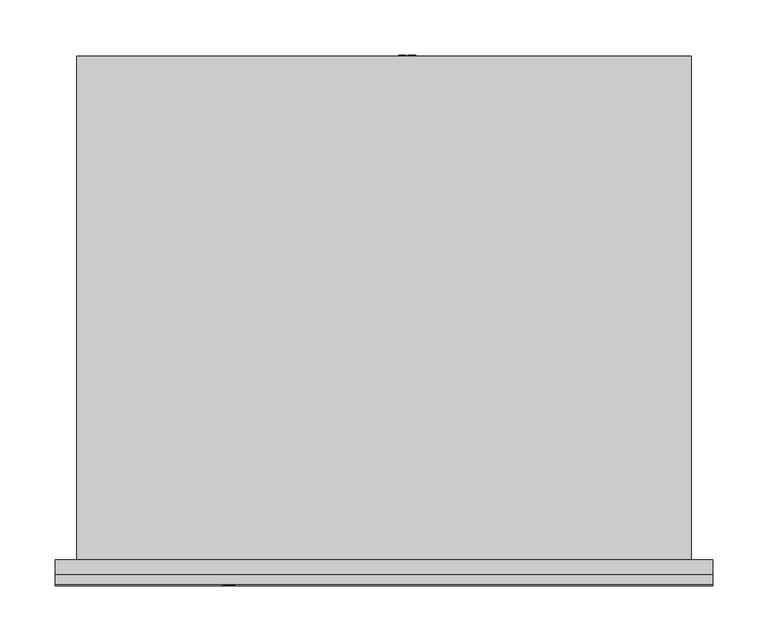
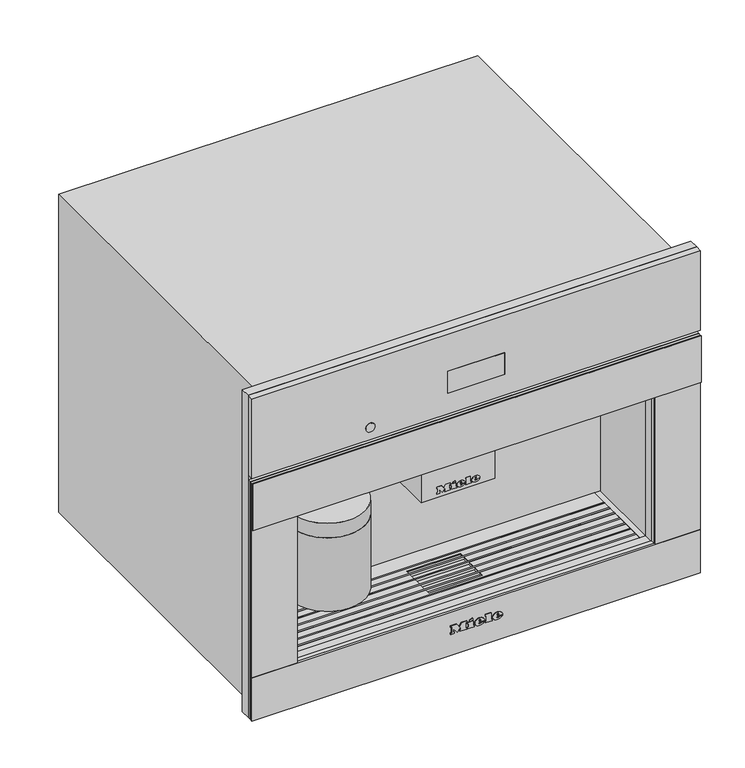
"""IFC4 building model written with IfcOpenShell, lengths in millimetres: proxy geometry, 11733930_CDN_CVA7440_EDST-CLST : 29744040_CDN_11733930_CVA7440_EDST-CLST."""

from ifc_helpers import new_model, si_unit, point, frame, frame_2d, origin, place, context, project, spatial, polyline, circle_curve, ellipse_curve, trimmed, segment, composite_curve, outline, extrude, faceted_brep, source, transform, mapped, element, save
from ifc_brep_helpers import plane_surface, cylinder_surface, revolved_surface, extruded_surface, advanced_brep


def specialty_equipment_b0fdc394(model_context):
    return source(origin(), model_context, "Body", "SolidModel", [
        extrude(outline(composite_curve([segment(trimmed(circle_curve(frame_2d((-14.0, 36.5)), 5.0), [point((-9.0, 36.5))], [point((-19.0, 36.5))], False, "CARTESIAN"), True, "CONTINUOUS"), segment(trimmed(circle_curve(frame_2d((-14.0, 36.5)), 5.0), [point((-19.0, 36.5))], [point((-9.0, 36.5))], False, "CARTESIAN"), True, "CONTINUOUS")], self_intersect=False)), frame((0.0, 0.0, 193.0), z_axis=(0.0, 0.0, 1.0), x_axis=(1.0, 0.0, 0.0)), (0.0, 0.0, 1.0), 5.0),
        extrude(outline(composite_curve([segment(trimmed(circle_curve(frame_2d((14.0, 36.5)), 5.0), [point((19.0, 36.5))], [point((9.0, 36.5))], False, "CARTESIAN"), True, "CONTINUOUS"), segment(trimmed(circle_curve(frame_2d((14.0, 36.5)), 5.0), [point((9.0, 36.5))], [point((19.0, 36.5))], False, "CARTESIAN"), True, "CONTINUOUS")], self_intersect=False)), frame((0.0, 0.0, 193.0), z_axis=(0.0, 0.0, 1.0), x_axis=(1.0, 0.0, 0.0)), (0.0, 0.0, 1.0), 5.0),
        extrude(outline(composite_curve([segment(trimmed(circle_curve(frame_2d((-156.5, 49.5)), 50.0), [point((-106.5, 49.5))], [point((-206.5, 49.5))], False, "CARTESIAN"), True, "CONTINUOUS"), segment(trimmed(circle_curve(frame_2d((-156.5, 49.5)), 50.0), [point((-206.5, 49.5))], [point((-106.5, 49.5))], False, "CARTESIAN"), True, "CONTINUOUS")], self_intersect=False)), frame((0.0, 0.0, 100.0), z_axis=(0.0, 0.0, 1.0), x_axis=(1.0, 0.0, 0.0)), (0.0, 0.0, 1.0), 103.0),
        extrude(outline(polyline([(-49.0, 95.0), (49.0, 95.0), (49.0, 20.0), (-49.0, 20.0), (-49.0, 95.0)])), frame((0.0, 0.0, 198.0), z_axis=(0.0, 0.0, 1.0), x_axis=(1.0, 0.0, 0.0)), (0.0, 0.0, 1.0), 75.0),
        extrude(outline(polyline([(455.5, 297.5), (455.5, -297.5), (4.0, -297.5), (4.0, 297.5), (455.5, 297.5)]), holes=[polyline([(273.0, 237.5), (63.0, 237.5), (63.0, -237.5), (273.0, -237.5), (273.0, 237.5)])]), frame((0.0, -13.0, 0.0), z_axis=(0.0, 1.0, 0.0), x_axis=(0.0, 0.0, 1.0)), (0.0, 0.0, 1.0), 13.0),
        extrude(outline(polyline([(97.0, 28.8772152), (107.045631, 28.8772152), (107.045631, 21.6569179), (105.7899271, 21.6569179), (105.7899271, 27.6215114), (102.8076304, 27.6215114), (102.8076304, 21.9708439), (101.5519266, 21.9708439), (101.5519266, 27.6215114), (98.2557039, 27.6215114), (98.2557039, 21.499955), (97.0, 21.499955), (97.0, 28.8772152)])), frame((0.0, 456.0, 0.0), z_axis=(0.0, 1.0, 0.0), x_axis=(0.0, 0.0, 1.0)), (0.0, 0.0, 1.0), 1.0),
        extrude(outline(polyline([(97.0, 19.6163991), (107.045631, 19.6163991), (107.045631, 18.3606953), (98.2557039, 18.3606953), (98.2557039, 13.3378798), (97.0, 13.3378798), (97.0, 19.6163991)])), frame((0.0, 456.0, 0.0), z_axis=(0.0, 1.0, 0.0), x_axis=(0.0, 0.0, 1.0)), (0.0, 0.0, 1.0), 1.0),
        advanced_brep(
        [(55.0, 425.5, 102.0), (55.0, 410.5, 102.0), (28.5, 425.5, 102.0), (13.5, 410.5, 102.0), (28.5, 456.0, 102.0), (13.5, 456.0, 102.0)],
        [
            (0, 1, circle_curve(frame((55.0, 418.0, 102.0), z_axis=(1.0, 0.0, 0.0), x_axis=(0.0, -1.0, 0.0)), 7.5)),
            (1, 0, circle_curve(frame((55.0, 418.0, 102.0), z_axis=(1.0, 0.0, 0.0), x_axis=(0.0, -1.0, 0.0)), 7.5)),
            (0, 2),
            (2, 3, ellipse_curve(frame((21.0, 418.0, 102.0), z_axis=(0.7071067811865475, -0.7071067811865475, 0.0), x_axis=(0.7071067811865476, 0.7071067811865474, 0.0)), 10.6066017, 7.5)),
            (3, 1),
            (3, 2, ellipse_curve(frame((21.0, 418.0, 102.0), z_axis=(0.7071067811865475, -0.7071067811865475, 0.0), x_axis=(0.7071067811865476, 0.7071067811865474, 0.0)), 10.6066017, 7.5)),
            (4, 5, circle_curve(frame((21.0, 456.0, 102.0), z_axis=(0.0, 1.0, 0.0), x_axis=(-1.0, 0.0, 0.0)), 7.5)),
            (5, 4, circle_curve(frame((21.0, 456.0, 102.0), z_axis=(0.0, 1.0, 0.0), x_axis=(-1.0, 0.0, 0.0)), 7.5)),
            (2, 4),
            (5, 3),
        ],
        [
            plane_surface(frame((55.0, 418.0, 102.0), z_axis=(1.0, 0.0, 0.0), x_axis=(0.0, 0.0, 1.0))),
            cylinder_surface(frame((55.0, 418.0, 102.0), z_axis=(1.0, 0.0, 0.0), x_axis=(0.0, -1.0, 0.0)), 7.5),
            plane_surface(frame((21.0, 456.0, 102.0), z_axis=(0.0, 1.0, 0.0), x_axis=(0.0, 0.0, 1.0))),
            cylinder_surface(frame((21.0, 418.0, 102.0), z_axis=(0.0, -1.0, 0.0), x_axis=(-1.0, 0.0, 0.0)), 7.5),
        ],
        [
            (0, [[1, 2]]),
            (1, [[-1, 3, 4, 5]]),
            (1, [[-2, -5, 6, -3]]),
            (2, [[7, 8]]),
            (3, [[-4, 9, -8, 10]]),
            (3, [[-6, -10, -7, -9]]),
        ],
    ),
        advanced_brep(
        [(-110.0, 49.5, 252.0), (-203.0, 49.5, 252.0), (-206.5, 49.5, 223.5), (-106.5, 49.5, 223.5), (-110.0, 49.5, 273.0), (-203.0, 49.5, 273.0), (-156.5, 49.5, 273.0), (-106.5, 49.5, 203.0), (-206.5, 49.5, 203.0), (-156.5, 49.5, 203.0)],
        [
            (0, 1, circle_curve(frame((-156.5, 49.5, 252.0), z_axis=(0.0, 0.0, -1.0), x_axis=(-1.0, 0.0, 0.0)), 46.5)),
            (1, 2, circle_curve(frame((-206.7961166, 49.5, 238.0012775), z_axis=(0.0, 1.0, 0.0), x_axis=(-1.0, 0.0, 0.0)), 14.5043005)),
            (2, 3, circle_curve(frame((-156.5, 49.5, 223.5), z_axis=(0.0, 0.0, 1.0), x_axis=(-1.0, 0.0, 0.0)), 50.0)),
            (3, 0, circle_curve(frame((-106.2038834, 49.5, 238.0012775), z_axis=(0.0, 1.0, 0.0), x_axis=(1.0, 0.0, 0.0)), 14.5043005)),
            (4, 5, circle_curve(frame((-156.5, 49.5, 273.0), z_axis=(0.0, 0.0, -1.0), x_axis=(-1.0, 0.0, 0.0)), 46.5)),
            (5, 1),
            (0, 4),
            (6, 4),
            (4, 5, circle_curve(frame((-156.5, 49.5, 273.0), z_axis=(0.0, 0.0, 1.0), x_axis=(-1.0, 0.0, 0.0)), 46.5)),
            (5, 6),
            (7, 8, circle_curve(frame((-156.5, 49.5, 203.0), z_axis=(0.0, 0.0, -1.0), x_axis=(-1.0, 0.0, 0.0)), 50.0)),
            (8, 9),
            (9, 7),
            (8, 7, circle_curve(frame((-156.5, 49.5, 203.0), z_axis=(0.0, 0.0, -1.0), x_axis=(-1.0, 0.0, 0.0)), 50.0)),
            (2, 8),
            (7, 3),
            (2, 3, circle_curve(frame((-156.5, 49.5, 223.5), z_axis=(0.0, 0.0, -1.0), x_axis=(-1.0, 0.0, 0.0)), 50.0)),
            (1, 0, circle_curve(frame((-156.5, 49.5, 252.0), z_axis=(0.0, 0.0, -1.0), x_axis=(-1.0, 0.0, 0.0)), 46.5)),
        ],
        [
            revolved_surface(trimmed(ellipse_curve(frame((-206.7961166, 49.5, 238.0012775), z_axis=(0.0, -1.0, 0.0), x_axis=(-1.0, 0.0, 0.0)), 14.5043005, 14.5043005), [point((-206.5, 49.5, 223.5))], [point((-203.0, 49.5, 252.0))], True, "CARTESIAN"), (-156.5, 49.5, 388.7361736), (0.0, 0.0, 1.0)),
            cylinder_surface(frame((-156.5, 49.5, 388.7361736), z_axis=(0.0, 0.0, 1.0), x_axis=(-1.0, 0.0, 0.0)), 46.5),
            plane_surface(frame((-156.5, 49.5, 273.0), z_axis=(0.0, 0.0, 1.0), x_axis=(-1.0, 0.0, 0.0))),
            plane_surface(frame((-156.5, 49.5, 203.0), z_axis=(0.0, 0.0, -1.0), x_axis=(-1.0, 0.0, 0.0))),
            cylinder_surface(frame((-156.5, 49.5, 388.7361736), z_axis=(0.0, 0.0, 1.0), x_axis=(-1.0, 0.0, 0.0)), 50.0),
        ],
        [
            (0, [[1, 2, 3, 4]]),
            (1, [[5, 6, -1, 7]]),
            (2, [[8, 9, 10]]),
            (3, [[11, 12, 13]]),
            (3, [[14, -13, -12]]),
            (4, [[-3, 15, -11, 16]]),
            (4, [[17, -16, -14, -15]]),
            (0, [[18, -4, -17, -2]]),
            (1, [[-9, -7, -18, -6]]),
            (2, [[-10, -5, -8]]),
        ],
    ),
        faceted_brep([(229.5, 82.0925571, 60.0), (229.5, 80.0925571, 60.0), (-229.5, 80.0925571, 60.0), (-229.5, 82.0925571, 60.0), (229.5, 70.0550731, 60.0), (229.5, 68.0550731, 60.0), (-229.5, 68.0550731, 60.0), (-229.5, 70.0550731, 60.0), (229.5, 58.0175891, 60.0), (229.5, 56.0175891, 60.0), (-229.5, 56.0175891, 60.0), (-229.5, 58.0175891, 60.0), (229.5, 45.9801052, 60.0), (229.5, 43.9801052, 60.0), (-229.5, 43.9801052, 60.0), (-229.5, 45.9801052, 60.0), (229.5, 33.9426212, 60.0), (229.5, 31.9426212, 60.0), (-229.5, 31.9426212, 60.0), (-229.5, 33.9426212, 60.0), (229.5, 21.9776522, 60.0), (229.5, 19.9776522, 60.0), (-229.5, 19.9776522, 60.0), (-229.5, 21.9776522, 60.0), (229.5, 10.0, 60.0), (229.5, 8.0, 60.0), (-229.5, 8.0, 60.0), (-229.5, 10.0, 60.0), (-229.5, 45.9801052, 62.0), (-36.0, 45.9801052, 62.0), (-36.0, 45.9801052, 63.0), (-229.5, 45.9801052, 63.0), (-229.5, 45.9801052, 63.5), (229.5, 45.9801052, 63.5), (229.5, 45.9801052, 63.0), (36.0, 45.9801052, 63.0), (36.0, 45.9801052, 62.0), (229.5, 45.9801052, 62.0), (229.5, 19.9776522, 62.0), (229.5, 10.0, 62.0), (-229.5, 10.0, 62.0), (-229.5, 19.9776522, 62.0), (229.5, 43.9801052, 62.0), (229.5, 33.9426212, 62.0), (36.0, 33.9426212, 62.0), (36.0, 43.9801052, 62.0), (229.5, 56.0175891, 62.0), (36.0, 56.0175891, 62.0), (229.5, 68.0550731, 62.0), (229.5, 58.0175891, 62.0), (36.0, 58.0175891, 62.0), (36.0, 68.0550731, 62.0), (-229.5, 33.9426212, 62.0), (-229.5, 43.9801052, 62.0), (-36.0, 43.9801052, 62.0), (-36.0, 33.9426212, 62.0), (-229.5, 56.0175891, 62.0), (-36.0, 56.0175891, 62.0), (-229.5, 58.0175891, 62.0), (-229.5, 68.0550731, 62.0), (-36.0, 68.0550731, 62.0), (-36.0, 58.0175891, 62.0), (-229.5, 104.5, 62.0), (229.5, 104.5, 62.0), (229.5, 82.0925571, 62.0), (-229.5, 82.0925571, 62.0), (36.0, 76.0, 62.0), (-36.0, 76.0, 62.0), (-36.0, 70.0550731, 62.0), (-229.5, 70.0550731, 62.0), (-229.5, 80.0925571, 62.0), (229.5, 80.0925571, 62.0), (229.5, 70.0550731, 62.0), (36.0, 70.0550731, 62.0), (229.5, 0.0, 62.0), (-229.5, 0.0, 62.0), (-229.5, 8.0, 62.0), (229.5, 8.0, 62.0), (-36.0, 25.0, 62.0), (36.0, 25.0, 62.0), (36.0, 31.9426212, 62.0), (229.5, 31.9426212, 62.0), (229.5, 21.9776522, 62.0), (-229.5, 21.9776522, 62.0), (-229.5, 31.9426212, 62.0), (-36.0, 31.9426212, 62.0), (229.5, 104.5, 63.0), (-229.5, 104.5, 63.0), (-229.5, 82.0925571, 63.0), (229.5, 82.0925571, 63.0), (-229.5, 0.0, 63.0), (229.5, 0.0, 63.0), (229.5, 8.0, 63.0), (-229.5, 8.0, 63.0), (-36.0, 76.0, 63.0), (36.0, 76.0, 63.0), (36.0, 70.0550731, 63.0), (229.5, 70.0550731, 63.0), (229.5, 80.0925571, 63.0), (-229.5, 80.0925571, 63.0), (-229.5, 70.0550731, 63.0), (-36.0, 70.0550731, 63.0), (36.0, 25.0, 63.0), (-36.0, 25.0, 63.0), (-36.0, 31.9426212, 63.0), (-229.5, 31.9426212, 63.0), (-229.5, 21.9776522, 63.0), (229.5, 21.9776522, 63.0), (229.5, 31.9426212, 63.0), (36.0, 31.9426212, 63.0), (-229.5, 19.9776522, 63.0), (-229.5, 10.0, 63.0), (229.5, 10.0, 63.0), (229.5, 19.9776522, 63.0), (-229.5, 43.9801052, 63.0), (-229.5, 33.9426212, 63.0), (-36.0, 33.9426212, 63.0), (-36.0, 43.9801052, 63.0), (-229.5, 56.0175891, 63.0), (-36.0, 56.0175891, 63.0), (-229.5, 68.0550731, 63.0), (-229.5, 58.0175891, 63.0), (-36.0, 58.0175891, 63.0), (-36.0, 68.0550731, 63.0), (229.5, 33.9426212, 63.0), (229.5, 43.9801052, 63.0), (36.0, 43.9801052, 63.0), (36.0, 33.9426212, 63.0), (229.5, 56.0175891, 63.0), (36.0, 56.0175891, 63.0), (229.5, 58.0175891, 63.0), (229.5, 68.0550731, 63.0), (36.0, 68.0550731, 63.0), (36.0, 58.0175891, 63.0), (-229.5, 8.0, 63.5), (-229.5, 10.0, 63.5), (-229.5, 19.9776522, 63.5), (-229.5, 21.9776522, 63.5), (-229.5, 31.9426212, 63.5), (-229.5, 33.9426212, 63.5), (-229.5, 43.9801052, 63.5), (-229.5, 56.0175891, 63.5), (-229.5, 58.0175891, 63.5), (-229.5, 68.0550731, 63.5), (-229.5, 70.0550731, 63.5), (-229.5, 80.0925571, 63.5), (-229.5, 82.0925571, 63.5), (229.5, 82.0925571, 63.5), (229.5, 80.0925571, 63.5), (229.5, 70.0550731, 63.5), (229.5, 68.0550731, 63.5), (229.5, 58.0175891, 63.5), (229.5, 56.0175891, 63.5), (229.5, 43.9801052, 63.5), (229.5, 33.9426212, 63.5), (229.5, 31.9426212, 63.5), (229.5, 21.9776522, 63.5), (229.5, 19.9776522, 63.5), (229.5, 10.0, 63.5), (229.5, 8.0, 63.5)], [[[0, 1, 2, 3]], [[4, 5, 6, 7]], [[8, 9, 10, 11]], [[12, 13, 14, 15]], [[16, 17, 18, 19]], [[20, 21, 22, 23]], [[24, 25, 26, 27]], [[12, 15, 28, 29, 30, 31, 32, 33, 34, 35, 36, 37]], [[38, 39, 40, 41]], [[42, 43, 44, 45]], [[46, 37, 36, 47]], [[48, 49, 50, 51]], [[52, 53, 54, 55]], [[28, 56, 57, 29]], [[58, 59, 60, 61]], [[62, 63, 64, 65]], [[66, 67, 68, 69, 70, 71, 72, 73]], [[74, 75, 76, 77]], [[78, 79, 80, 81, 82, 83, 84, 85]], [[86, 87, 88, 89]], [[90, 91, 92, 93]], [[94, 95, 96, 97, 98, 99, 100, 101]], [[102, 103, 104, 105, 106, 107, 108, 109]], [[110, 111, 112, 113]], [[114, 115, 116, 117]], [[118, 31, 30, 119]], [[120, 121, 122, 123]], [[124, 125, 126, 127]], [[34, 128, 129, 35]], [[130, 131, 132, 133]], [[63, 62, 87, 86]], [[87, 62, 65, 3, 2, 70, 69, 7, 6, 59, 58, 11, 10, 56, 28, 15, 14, 53, 52, 19, 18, 84, 83, 23, 22, 41, 40, 27, 26, 76, 75, 90, 93, 134, 135, 111, 110, 136, 137, 106, 105, 138, 139, 115, 114, 140, 32, 31, 118, 141, 142, 121, 120, 143, 144, 100, 99, 145, 146, 88]], [[75, 74, 91, 90]], [[63, 86, 89, 147, 148, 98, 97, 149, 150, 131, 130, 151, 152, 128, 34, 33, 153, 125, 124, 154, 155, 108, 107, 156, 157, 113, 112, 158, 159, 92, 91, 74, 77, 25, 24, 39, 38, 21, 20, 82, 81, 17, 16, 43, 42, 13, 12, 37, 46, 9, 8, 49, 48, 5, 4, 72, 71, 1, 0, 64]], [[66, 95, 94, 67]], [[55, 54, 117, 116]], [[29, 57, 119, 30]], [[61, 60, 123, 122]], [[67, 94, 101, 68]], [[103, 78, 85, 104]], [[78, 103, 102, 79]], [[45, 44, 127, 126]], [[47, 36, 35, 129]], [[51, 50, 133, 132]], [[95, 66, 73, 96]], [[79, 102, 109, 80]], [[158, 135, 134, 159]], [[156, 137, 136, 157]], [[154, 139, 138, 155]], [[33, 32, 140, 153]], [[151, 142, 141, 152]], [[149, 144, 143, 150]], [[147, 146, 145, 148]], [[24, 27, 40, 39]], [[135, 158, 112, 111]], [[26, 25, 77, 76]], [[159, 134, 93, 92]], [[20, 23, 83, 82]], [[137, 156, 107, 106]], [[22, 21, 38, 41]], [[157, 136, 110, 113]], [[16, 19, 52, 55, 116, 115, 139, 154, 124, 127, 44, 43]], [[18, 17, 81, 80, 109, 108, 155, 138, 105, 104, 85, 84]], [[14, 13, 42, 45, 126, 125, 153, 140, 114, 117, 54, 53]], [[8, 11, 58, 61, 122, 121, 142, 151, 130, 133, 50, 49]], [[10, 9, 46, 47, 129, 128, 152, 141, 118, 119, 57, 56]], [[4, 7, 69, 68, 101, 100, 144, 149, 97, 96, 73, 72]], [[6, 5, 48, 51, 132, 131, 150, 143, 120, 123, 60, 59]], [[0, 3, 65, 64]], [[146, 147, 89, 88]], [[2, 1, 71, 70]], [[148, 145, 99, 98]]]),
        faceted_brep([(-278.0, 456.0, 0.0), (-278.0, 0.0, 0.0), (-278.0, 0.0, 446.0), (-278.0, 456.0, 446.0), (278.0, 456.0, 0.0), (278.0, 456.0, 446.0), (278.0, 0.0, 446.0), (278.0, 0.0, 0.0), (55.0, 456.0, 133.0), (-22.0, 456.0, 133.0), (-22.0, 456.0, 89.0), (35.0, 456.0, 66.0), (55.0, 456.0, 66.0), (-36.0, 76.0, 58.0), (36.0, 76.0, 58.0), (36.0, 76.0, 62.0), (-36.0, 76.0, 62.0), (36.0, 25.0, 58.0), (-36.0, 25.0, 58.0), (-36.0, 25.0, 62.0), (36.0, 25.0, 62.0), (237.5, 0.0, 273.0), (237.5, 0.0, 63.0), (229.5, 0.0, 63.0), (229.5, 0.0, 62.0), (-229.5, 0.0, 62.0), (-229.5, 0.0, 63.0), (-237.5, 0.0, 63.0), (-237.5, 0.0, 273.0), (237.5, 104.5, 273.0), (-237.5, 104.5, 273.0), (-237.5, 104.5, 63.0), (-229.5, 104.5, 63.0), (-229.5, 104.5, 62.0), (229.5, 104.5, 62.0), (229.5, 104.5, 63.0), (237.5, 104.5, 63.0), (-22.0, 400.0, 133.0), (55.0, 400.0, 133.0), (55.0, 400.0, 66.0), (35.0, 400.0, 66.0), (-22.0, 400.0, 89.0)], [[[0, 1, 2, 3]], [[4, 5, 6, 7]], [[0, 3, 5, 4], [8, 9, 10, 11, 12]], [[13, 14, 15, 16]], [[17, 18, 19, 20]], [[3, 2, 6, 5]], [[2, 1, 7, 6], [21, 22, 23, 24, 25, 26, 27, 28]], [[1, 0, 4, 7]], [[29, 30, 31, 32, 33, 34, 35, 36]], [[29, 36, 22, 21]], [[22, 36, 35, 23]], [[31, 27, 26, 32]], [[31, 30, 28, 27]], [[30, 29, 21, 28]], [[34, 33, 25, 24], [16, 15, 20, 19]], [[25, 33, 32, 26]], [[34, 24, 23, 35]], [[14, 13, 18, 17]], [[18, 13, 16, 19]], [[14, 17, 20, 15]], [[37, 38, 39, 40, 41]], [[38, 37, 9, 8]], [[39, 38, 8, 12]], [[40, 39, 12, 11]], [[41, 40, 11, 10]], [[37, 41, 10, 9]]]),
        advanced_brep(
        [(27.088, -23.0, 36.7018), (27.088, -23.0, 37.8532), (34.7146, -23.0, 37.8532), (21.445, -23.0, 37.8532), (24.58, -23.0, 34.0), (34.5208, -23.0, 36.7018), (31.078, -23.0, 36.7018), (28.3648, -23.0, 35.425), (27.088, -23.0, 39.3124), (27.088, -23.0, 40.555), (29.0374, -23.0, 40.555), (29.0374, -23.0, 39.3124), (27.088, -22.0, 36.7018), (28.3648, -22.0, 35.425), (31.078, -22.0, 36.7018), (34.5208, -22.0, 36.7018), (24.58, -22.0, 34.0), (21.445, -22.0, 37.8532), (34.7146, -22.0, 37.8532), (27.088, -22.0, 37.8532), (27.088, -22.0, 39.3124), (29.0374, -22.0, 39.3124), (29.0374, -22.0, 40.555), (27.088, -22.0, 40.555)],
        [
            (0, 1),
            (1, 2),
            (2, 3, ellipse_curve(frame((28.0798, -23.0, 37.8532), z_axis=(0.0, -1.0, 0.0), x_axis=(-1.0, 0.0, 0.0)), 6.6348, 5.4834)),
            (3, 4, circle_curve(frame((25.8568622, -23.0, 38.2408), z_axis=(0.0, -1.0, 0.0), x_axis=(0.0, 0.0, -1.0)), 4.4288556)),
            (4, 5, circle_curve(frame((27.9469808, -23.0, 41.2504), z_axis=(0.0, -1.0, 0.0), x_axis=(0.0, 0.0, -1.0)), 7.9940516)),
            (5, 6),
            (6, 7, circle_curve(frame((28.9220588, -23.0, 37.762), z_axis=(0.0, 1.0, 0.0), x_axis=(0.0, 0.0, -1.0)), 2.4025208)),
            (7, 0, circle_curve(frame((28.3648, -23.0, 36.7018), z_axis=(0.0, 1.0, 0.0), x_axis=(0.0, 0.0, -1.0)), 1.2768)),
            (8, 9),
            (9, 10, circle_curve(frame((28.0627, -23.0, 40.555), z_axis=(0.0, 1.0, 0.0), x_axis=(0.0, 0.0, -1.0)), 0.9747)),
            (10, 11),
            (11, 8),
            (12, 13, circle_curve(frame((28.3648, -22.0, 36.7018), z_axis=(0.0, -1.0, 0.0), x_axis=(0.0, 0.0, -1.0)), 1.2768)),
            (13, 14, circle_curve(frame((28.9220588, -22.0, 37.762), z_axis=(0.0, -1.0, 0.0), x_axis=(0.0, 0.0, -1.0)), 2.4025208)),
            (14, 15),
            (15, 16, circle_curve(frame((27.9469808, -22.0, 41.2504), z_axis=(0.0, 1.0, 0.0), x_axis=(0.0, 0.0, -1.0)), 7.9940516)),
            (16, 17, circle_curve(frame((25.8568622, -22.0, 38.2408), z_axis=(0.0, 1.0, 0.0), x_axis=(0.0, 0.0, -1.0)), 4.4288556)),
            (17, 18, ellipse_curve(frame((28.0798, -22.0, 37.8532), z_axis=(0.0, 1.0, 0.0), x_axis=(-1.0, 0.0, 0.0)), 6.6348, 5.4834)),
            (18, 19),
            (19, 12),
            (20, 21),
            (21, 22),
            (22, 23, circle_curve(frame((28.0627, -22.0, 40.555), z_axis=(0.0, -1.0, 0.0), x_axis=(0.0, 0.0, -1.0)), 0.9747)),
            (23, 20),
            (0, 12),
            (19, 1),
            (18, 2),
            (5, 15),
            (14, 6),
            (17, 3),
            (13, 7),
            (16, 4),
            (8, 20),
            (23, 9),
            (22, 10),
            (21, 11),
        ],
        [
            plane_surface(frame((27.088, -23.0, 37.8532), z_axis=(0.0, -1.0, 0.0), x_axis=(0.0, 0.0, 1.0))),
            plane_surface(frame((27.088, -22.0, 37.8532), z_axis=(0.0, 1.0, 0.0), x_axis=(0.0, 0.0, -1.0))),
            plane_surface(frame((27.088, -23.0, 36.7018), z_axis=(1.0, 0.0, 0.0), x_axis=(0.0, 1.0, 0.0))),
            plane_surface(frame((27.088, -23.0, 37.8532), z_axis=(0.0, 0.0, -1.0), x_axis=(0.0, 1.0, 0.0))),
            plane_surface(frame((34.5208, -23.0, 36.7018), z_axis=(0.0, 0.0, 1.0), x_axis=(0.0, 1.0, 0.0))),
            extruded_surface(trimmed(ellipse_curve(frame((28.0798, -21.0, 37.8532), z_axis=(0.0, -1.0, 0.0), x_axis=(-1.0, 0.0, 0.0)), 6.6348, 5.4834), [point((34.7146, -21.0, 37.8532))], [point((21.445, -21.0, 37.8532))], True, "CARTESIAN"), (0.0, -1.0, 0.0), 1.0),
            revolved_surface(polyline([(28.9220588, -22.0, 35.3594792), (28.9220588, -23.0, 35.3594792)]), (28.9220588, -22.0, 37.762), (0.0, 1.0, 0.0)),
            revolved_surface(polyline([(28.3648, -22.0, 35.425), (28.3648, -23.0, 35.425)]), (28.3648, -22.0, 36.7018), (0.0, 1.0, 0.0)),
            cylinder_surface(frame((25.8568622, -22.0, 38.2408), z_axis=(0.0, -1.0, 0.0), x_axis=(0.0, 0.0, -1.0)), 4.4288556),
            cylinder_surface(frame((27.9469808, -22.0, 41.2504), z_axis=(0.0, -1.0, 0.0), x_axis=(0.0, 0.0, -1.0)), 7.9940516),
            plane_surface(frame((27.088, -23.0, 39.3124), z_axis=(1.0, 0.0, 0.0), x_axis=(0.0, 1.0, 0.0))),
            revolved_surface(polyline([(28.0627, -22.0, 39.5803), (28.0627, -23.0, 39.5803)]), (28.0627, -22.0, 40.555), (0.0, 1.0, 0.0)),
            plane_surface(frame((29.0374, -23.0, 40.555), z_axis=(-1.0, 0.0, 0.0), x_axis=(0.0, 1.0, 0.0))),
            plane_surface(frame((29.0374, -23.0, 39.3124), z_axis=(0.0, 0.0, 1.0), x_axis=(0.0, 1.0, 0.0))),
        ],
        [
            (0, [[1, 2, 3, 4, 5, 6, 7, 8], [9, 10, 11, 12]]),
            (1, [[13, 14, 15, 16, 17, 18, 19, 20], [21, 22, 23, 24]]),
            (2, [[-1, 25, -20, 26]]),
            (3, [[-2, -26, -19, 27]]),
            (4, [[-6, 28, -15, 29]]),
            (5, [[-3, -27, -18, 30]]),
            (6, [[-7, -29, -14, 31]]),
            (7, [[-8, -31, -13, -25]]),
            (8, [[-4, -30, -17, 32]]),
            (9, [[-5, -32, -16, -28]]),
            (10, [[-9, 33, -24, 34]]),
            (11, [[-10, -34, -23, 35]]),
            (12, [[-11, -35, -22, 36]]),
            (13, [[-12, -36, -21, -33]]),
        ],
    ),
        advanced_brep(
        [(3.2962, -23.0, 36.7018), (3.2962, -23.0, 37.8532), (10.9228, -23.0, 37.8532), (-2.3468, -23.0, 37.8532), (0.7882, -23.0, 34.0), (10.729, -23.0, 36.7018), (7.2862, -23.0, 36.7018), (4.573, -23.0, 35.425), (3.2962, -23.0, 39.3124), (3.2962, -23.0, 40.555), (5.2456, -23.0, 40.555), (5.2456, -23.0, 39.3124), (3.2962, -22.0, 36.7018), (4.573, -22.0, 35.425), (7.2862, -22.0, 36.7018), (10.729, -22.0, 36.7018), (0.7882, -22.0, 34.0), (-2.3468, -22.0, 37.8532), (10.9228, -22.0, 37.8532), (3.2962, -22.0, 37.8532), (3.2962, -22.0, 39.3124), (5.2456, -22.0, 39.3124), (5.2456, -22.0, 40.555), (3.2962, -22.0, 40.555)],
        [
            (0, 1),
            (1, 2),
            (2, 3, ellipse_curve(frame((4.288, -23.0, 37.8532), z_axis=(0.0, -1.0, 0.0), x_axis=(-1.0, 0.0, 0.0)), 6.6348, 5.4834)),
            (3, 4, circle_curve(frame((2.0650622, -23.0, 38.2408), z_axis=(0.0, -1.0, 0.0), x_axis=(0.0, 0.0, -1.0)), 4.4288556)),
            (4, 5, circle_curve(frame((4.1551808, -23.0, 41.2504), z_axis=(0.0, -1.0, 0.0), x_axis=(0.0, 0.0, -1.0)), 7.9940516)),
            (5, 6),
            (6, 7, circle_curve(frame((5.1302588, -23.0, 37.762), z_axis=(0.0, 1.0, 0.0), x_axis=(0.0, 0.0, -1.0)), 2.4025208)),
            (7, 0, circle_curve(frame((4.573, -23.0, 36.7018), z_axis=(0.0, 1.0, 0.0), x_axis=(0.0, 0.0, -1.0)), 1.2768)),
            (8, 9),
            (9, 10, circle_curve(frame((4.2709, -23.0, 40.555), z_axis=(0.0, 1.0, 0.0), x_axis=(0.0, 0.0, -1.0)), 0.9747)),
            (10, 11),
            (11, 8),
            (12, 13, circle_curve(frame((4.573, -22.0, 36.7018), z_axis=(0.0, -1.0, 0.0), x_axis=(0.0, 0.0, -1.0)), 1.2768)),
            (13, 14, circle_curve(frame((5.1302588, -22.0, 37.762), z_axis=(0.0, -1.0, 0.0), x_axis=(0.0, 0.0, -1.0)), 2.4025208)),
            (14, 15),
            (15, 16, circle_curve(frame((4.1551808, -22.0, 41.2504), z_axis=(0.0, 1.0, 0.0), x_axis=(0.0, 0.0, -1.0)), 7.9940516)),
            (16, 17, circle_curve(frame((2.0650622, -22.0, 38.2408), z_axis=(0.0, 1.0, 0.0), x_axis=(0.0, 0.0, -1.0)), 4.4288556)),
            (17, 18, ellipse_curve(frame((4.288, -22.0, 37.8532), z_axis=(0.0, 1.0, 0.0), x_axis=(-1.0, 0.0, 0.0)), 6.6348, 5.4834)),
            (18, 19),
            (19, 12),
            (20, 21),
            (21, 22),
            (22, 23, circle_curve(frame((4.2709, -22.0, 40.555), z_axis=(0.0, -1.0, 0.0), x_axis=(0.0, 0.0, -1.0)), 0.9747)),
            (23, 20),
            (0, 12),
            (19, 1),
            (18, 2),
            (5, 15),
            (14, 6),
            (17, 3),
            (13, 7),
            (16, 4),
            (8, 20),
            (23, 9),
            (22, 10),
            (21, 11),
        ],
        [
            plane_surface(frame((3.2962, -23.0, 37.8532), z_axis=(0.0, -1.0, 0.0), x_axis=(0.0, 0.0, 1.0))),
            plane_surface(frame((3.2962, -22.0, 37.8532), z_axis=(0.0, 1.0, 0.0), x_axis=(0.0, 0.0, -1.0))),
            plane_surface(frame((3.2962, -23.0, 36.7018), z_axis=(1.0, 0.0, 0.0), x_axis=(0.0, 1.0, 0.0))),
            plane_surface(frame((3.2962, -23.0, 37.8532), z_axis=(0.0, 0.0, -1.0), x_axis=(0.0, 1.0, 0.0))),
            plane_surface(frame((10.729, -23.0, 36.7018), z_axis=(0.0, 0.0, 1.0), x_axis=(0.0, 1.0, 0.0))),
            extruded_surface(trimmed(ellipse_curve(frame((4.288, -21.0, 37.8532), z_axis=(0.0, -1.0, 0.0), x_axis=(-1.0, 0.0, 0.0)), 6.6348, 5.4834), [point((10.9228, -21.0, 37.8532))], [point((-2.3468, -21.0, 37.8532))], True, "CARTESIAN"), (0.0, -1.0, 0.0), 1.0),
            revolved_surface(polyline([(5.1302588, -22.0, 35.3594792), (5.1302588, -23.0, 35.3594792)]), (5.1302588, -22.0, 37.762), (0.0, 1.0, 0.0)),
            revolved_surface(polyline([(4.573, -22.0, 35.425), (4.573, -23.0, 35.425)]), (4.573, -22.0, 36.7018), (0.0, 1.0, 0.0)),
            cylinder_surface(frame((2.0650622, -22.0, 38.2408), z_axis=(0.0, -1.0, 0.0), x_axis=(0.0, 0.0, -1.0)), 4.4288556),
            cylinder_surface(frame((4.1551808, -22.0, 41.2504), z_axis=(0.0, -1.0, 0.0), x_axis=(0.0, 0.0, -1.0)), 7.9940516),
            plane_surface(frame((3.2962, -23.0, 39.3124), z_axis=(1.0, 0.0, 0.0), x_axis=(0.0, 1.0, 0.0))),
            revolved_surface(polyline([(4.2709, -22.0, 39.5803), (4.2709, -23.0, 39.5803)]), (4.2709, -22.0, 40.555), (0.0, 1.0, 0.0)),
            plane_surface(frame((5.2456, -23.0, 40.555), z_axis=(-1.0, 0.0, 0.0), x_axis=(0.0, 1.0, 0.0))),
            plane_surface(frame((5.2456, -23.0, 39.3124), z_axis=(0.0, 0.0, 1.0), x_axis=(0.0, 1.0, 0.0))),
        ],
        [
            (0, [[1, 2, 3, 4, 5, 6, 7, 8], [9, 10, 11, 12]]),
            (1, [[13, 14, 15, 16, 17, 18, 19, 20], [21, 22, 23, 24]]),
            (2, [[-1, 25, -20, 26]]),
            (3, [[-2, -26, -19, 27]]),
            (4, [[-6, 28, -15, 29]]),
            (5, [[-3, -27, -18, 30]]),
            (6, [[-7, -29, -14, 31]]),
            (7, [[-8, -31, -13, -25]]),
            (8, [[-4, -30, -17, 32]]),
            (9, [[-5, -32, -16, -28]]),
            (10, [[-9, 33, -24, 34]]),
            (11, [[-10, -34, -23, 35]]),
            (12, [[-11, -35, -22, 36]]),
            (13, [[-12, -36, -21, -33]]),
        ],
    ),
        extrude(outline(polyline([(44.7274, -9.164), (42.8806, -8.2976), (44.6818, -4.433), (46.5286, -5.288), (44.7274, -9.164)])), frame((0.0, -23.0, 0.0), z_axis=(0.0, 1.0, 0.0), x_axis=(0.0, 0.0, 1.0)), (0.0, 0.0, 1.0), 1.0),
        extrude(outline(polyline([(42.6298, -11.9798), (40.5892, -11.9798), (40.5892, -10.6232), (35.9152, -10.6232), (35.9152, -11.9798), (34.0, -11.9798), (34.0, -2.9852), (35.9152, -2.9852), (35.9152, -4.3076), (42.6298, -4.3076), (42.6298, -11.9798)])), frame((0.0, -23.0, 0.0), z_axis=(0.0, 1.0, 0.0), x_axis=(0.0, 0.0, 1.0)), (0.0, 0.0, 1.0), 1.0),
        extrude(outline(polyline([(43.5418, 11.5612), (43.5418, 12.9292), (35.9152, 12.9292), (35.9152, 11.5612), (34.0, 11.5612), (34.0, 20.8066), (35.9152, 20.8066), (35.9152, 19.4044), (45.4, 19.4044), (45.4, 11.5612), (43.5418, 11.5612)])), frame((0.0, -23.0, 0.0), z_axis=(0.0, 1.0, 0.0), x_axis=(0.0, 0.0, 1.0)), (0.0, 0.0, 1.0), 1.0),
        extrude(outline(polyline([(43.5418, -34.7), (43.5418, -33.3206), (35.9152, -33.3206), (35.9152, -34.7), (34.0, -34.7), (34.0, -29.684), (35.9152, -29.684), (35.9152, -31.052), (40.7429247, -31.052), (34.0, -25.9562), (40.9402223, -20.8376), (35.9152, -20.8376), (35.9152, -22.2398), (34.0, -22.2398), (34.0, -13.1426), (35.9152, -13.1426), (35.9152, -14.5904), (43.5418, -14.5904), (43.5418, -13.1426), (45.4, -13.1426), (45.4, -20.0852), (41.125, -23.414), (45.4, -26.7542), (45.4, -34.7), (43.5418, -34.7)])), frame((0.0, -23.0, 0.0), z_axis=(0.0, 1.0, 0.0), x_axis=(0.0, 0.0, 1.0)), (0.0, 0.0, 1.0), 1.0),
        advanced_brep(
        [(22.348, 19.0, 205.5278), (22.348, 19.0, 206.4772), (28.6366, 19.0, 206.4772), (17.695, 19.0, 206.4772), (20.28, 19.0, 203.3), (28.4768, 19.0, 205.5278), (25.638, 19.0, 205.5278), (23.4008, 19.0, 204.475), (22.348, 19.0, 207.6804), (22.348, 19.0, 208.705), (23.9554, 19.0, 208.705), (23.9554, 19.0, 207.6804), (22.348, 20.0, 205.5278), (23.4008, 20.0, 204.475), (25.638, 20.0, 205.5278), (28.4768, 20.0, 205.5278), (20.28, 20.0, 203.3), (17.695, 20.0, 206.4772), (28.6366, 20.0, 206.4772), (22.348, 20.0, 206.4772), (22.348, 20.0, 207.6804), (23.9554, 20.0, 207.6804), (23.9554, 20.0, 208.705), (22.348, 20.0, 208.705)],
        [
            (0, 1),
            (1, 2),
            (2, 3, ellipse_curve(frame((23.1658, 19.0, 206.4772), z_axis=(0.0, -1.0, 0.0), x_axis=(-1.0, 0.0, 0.0)), 5.4708, 4.5214)),
            (3, 4, circle_curve(frame((21.3328513, 19.0, 206.7968), z_axis=(0.0, -1.0, 0.0), x_axis=(0.0, 0.0, -1.0)), 3.6518634)),
            (4, 5, circle_curve(frame((23.0562825, 19.0, 209.2784), z_axis=(0.0, -1.0, 0.0), x_axis=(0.0, 0.0, -1.0)), 6.5915864)),
            (5, 6),
            (6, 7, circle_curve(frame((23.8602941, 19.0, 206.402), z_axis=(0.0, 1.0, 0.0), x_axis=(0.0, 0.0, -1.0)), 1.981026)),
            (7, 0, circle_curve(frame((23.4008, 19.0, 205.5278), z_axis=(0.0, 1.0, 0.0), x_axis=(0.0, 0.0, -1.0)), 1.0528)),
            (8, 9),
            (9, 10, circle_curve(frame((23.1517, 19.0, 208.705), z_axis=(0.0, 1.0, 0.0), x_axis=(0.0, 0.0, -1.0)), 0.8037)),
            (10, 11),
            (11, 8),
            (12, 13, circle_curve(frame((23.4008, 20.0, 205.5278), z_axis=(0.0, -1.0, 0.0), x_axis=(0.0, 0.0, -1.0)), 1.0528)),
            (13, 14, circle_curve(frame((23.8602941, 20.0, 206.402), z_axis=(0.0, -1.0, 0.0), x_axis=(0.0, 0.0, -1.0)), 1.981026)),
            (14, 15),
            (15, 16, circle_curve(frame((23.0562825, 20.0, 209.2784), z_axis=(0.0, 1.0, 0.0), x_axis=(0.0, 0.0, -1.0)), 6.5915864)),
            (16, 17, circle_curve(frame((21.3328513, 20.0, 206.7968), z_axis=(0.0, 1.0, 0.0), x_axis=(0.0, 0.0, -1.0)), 3.6518634)),
            (17, 18, ellipse_curve(frame((23.1658, 20.0, 206.4772), z_axis=(0.0, 1.0, 0.0), x_axis=(-1.0, 0.0, 0.0)), 5.4708, 4.5214)),
            (18, 19),
            (19, 12),
            (20, 21),
            (21, 22),
            (22, 23, circle_curve(frame((23.1517, 20.0, 208.705), z_axis=(0.0, -1.0, 0.0), x_axis=(0.0, 0.0, -1.0)), 0.8037)),
            (23, 20),
            (0, 12),
            (19, 1),
            (18, 2),
            (5, 15),
            (14, 6),
            (17, 3),
            (13, 7),
            (16, 4),
            (8, 20),
            (23, 9),
            (22, 10),
            (21, 11),
        ],
        [
            plane_surface(frame((22.348, 19.0, 206.4772), z_axis=(0.0, -1.0, 0.0), x_axis=(0.0, 0.0, 1.0))),
            plane_surface(frame((22.348, 20.0, 206.4772), z_axis=(0.0, 1.0, 0.0), x_axis=(0.0, 0.0, -1.0))),
            plane_surface(frame((22.348, 19.0, 205.5278), z_axis=(1.0, 0.0, 0.0), x_axis=(0.0, 1.0, 0.0))),
            plane_surface(frame((22.348, 19.0, 206.4772), z_axis=(0.0, 0.0, -1.0), x_axis=(0.0, 1.0, 0.0))),
            plane_surface(frame((28.4768, 19.0, 205.5278), z_axis=(0.0, 0.0, 1.0), x_axis=(0.0, 1.0, 0.0))),
            extruded_surface(trimmed(ellipse_curve(frame((23.1658, 21.0, 206.4772), z_axis=(0.0, -1.0, 0.0), x_axis=(-1.0, 0.0, 0.0)), 5.4708, 4.5214), [point((28.6366, 21.0, 206.4772))], [point((17.695, 21.0, 206.4772))], True, "CARTESIAN"), (0.0, -1.0, 0.0), 1.0),
            revolved_surface(polyline([(23.8602941, 20.0, 204.420974), (23.8602941, 19.0, 204.420974)]), (23.8602941, 20.0, 206.402), (0.0, 1.0, 0.0)),
            revolved_surface(polyline([(23.4008, 20.0, 204.47500000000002), (23.4008, 19.0, 204.47500000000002)]), (23.4008, 20.0, 205.5278), (0.0, 1.0, 0.0)),
            cylinder_surface(frame((21.3328513, 20.0, 206.7968), z_axis=(0.0, -1.0, 0.0), x_axis=(0.0, 0.0, -1.0)), 3.6518634),
            cylinder_surface(frame((23.0562825, 20.0, 209.2784), z_axis=(0.0, -1.0, 0.0), x_axis=(0.0, 0.0, -1.0)), 6.5915864),
            plane_surface(frame((22.348, 19.0, 207.6804), z_axis=(1.0, 0.0, 0.0), x_axis=(0.0, 1.0, 0.0))),
            revolved_surface(polyline([(23.1517, 20.0, 207.90130000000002), (23.1517, 19.0, 207.90130000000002)]), (23.1517, 20.0, 208.705), (0.0, 1.0, 0.0)),
            plane_surface(frame((23.9554, 19.0, 208.705), z_axis=(-1.0, 0.0, 0.0), x_axis=(0.0, 1.0, 0.0))),
            plane_surface(frame((23.9554, 19.0, 207.6804), z_axis=(0.0, 0.0, 1.0), x_axis=(0.0, 1.0, 0.0))),
        ],
        [
            (0, [[1, 2, 3, 4, 5, 6, 7, 8], [9, 10, 11, 12]]),
            (1, [[13, 14, 15, 16, 17, 18, 19, 20], [21, 22, 23, 24]]),
            (2, [[-1, 25, -20, 26]]),
            (3, [[-2, -26, -19, 27]]),
            (4, [[-6, 28, -15, 29]]),
            (5, [[-3, -27, -18, 30]]),
            (6, [[-7, -29, -14, 31]]),
            (7, [[-8, -31, -13, -25]]),
            (8, [[-4, -30, -17, 32]]),
            (9, [[-5, -32, -16, -28]]),
            (10, [[-9, 33, -24, 34]]),
            (11, [[-10, -34, -23, 35]]),
            (12, [[-11, -35, -22, 36]]),
            (13, [[-12, -36, -21, -33]]),
        ],
    ),
        advanced_brep(
        [(2.7302, 19.0, 205.5278), (2.7302, 19.0, 206.4772), (9.0188, 19.0, 206.4772), (-1.9228, 19.0, 206.4772), (0.6622, 19.0, 203.3), (8.859, 19.0, 205.5278), (6.0202, 19.0, 205.5278), (3.783, 19.0, 204.475), (2.7302, 19.0, 207.6804), (2.7302, 19.0, 208.705), (4.3376, 19.0, 208.705), (4.3376, 19.0, 207.6804), (2.7302, 20.0, 205.5278), (3.783, 20.0, 204.475), (6.0202, 20.0, 205.5278), (8.859, 20.0, 205.5278), (0.6622, 20.0, 203.3), (-1.9228, 20.0, 206.4772), (9.0188, 20.0, 206.4772), (2.7302, 20.0, 206.4772), (2.7302, 20.0, 207.6804), (4.3376, 20.0, 207.6804), (4.3376, 20.0, 208.705), (2.7302, 20.0, 208.705)],
        [
            (0, 1),
            (1, 2),
            (2, 3, ellipse_curve(frame((3.548, 19.0, 206.4772), z_axis=(0.0, -1.0, 0.0), x_axis=(-1.0, 0.0, 0.0)), 5.4708, 4.5214)),
            (3, 4, circle_curve(frame((1.7150513, 19.0, 206.7968), z_axis=(0.0, -1.0, 0.0), x_axis=(0.0, 0.0, -1.0)), 3.6518634)),
            (4, 5, circle_curve(frame((3.4384825, 19.0, 209.2784), z_axis=(0.0, -1.0, 0.0), x_axis=(0.0, 0.0, -1.0)), 6.5915864)),
            (5, 6),
            (6, 7, circle_curve(frame((4.2424941, 19.0, 206.402), z_axis=(0.0, 1.0, 0.0), x_axis=(0.0, 0.0, -1.0)), 1.981026)),
            (7, 0, circle_curve(frame((3.783, 19.0, 205.5278), z_axis=(0.0, 1.0, 0.0), x_axis=(0.0, 0.0, -1.0)), 1.0528)),
            (8, 9),
            (9, 10, circle_curve(frame((3.5339, 19.0, 208.705), z_axis=(0.0, 1.0, 0.0), x_axis=(0.0, 0.0, -1.0)), 0.8037)),
            (10, 11),
            (11, 8),
            (12, 13, circle_curve(frame((3.783, 20.0, 205.5278), z_axis=(0.0, -1.0, 0.0), x_axis=(0.0, 0.0, -1.0)), 1.0528)),
            (13, 14, circle_curve(frame((4.2424941, 20.0, 206.402), z_axis=(0.0, -1.0, 0.0), x_axis=(0.0, 0.0, -1.0)), 1.981026)),
            (14, 15),
            (15, 16, circle_curve(frame((3.4384825, 20.0, 209.2784), z_axis=(0.0, 1.0, 0.0), x_axis=(0.0, 0.0, -1.0)), 6.5915864)),
            (16, 17, circle_curve(frame((1.7150513, 20.0, 206.7968), z_axis=(0.0, 1.0, 0.0), x_axis=(0.0, 0.0, -1.0)), 3.6518634)),
            (17, 18, ellipse_curve(frame((3.548, 20.0, 206.4772), z_axis=(0.0, 1.0, 0.0), x_axis=(-1.0, 0.0, 0.0)), 5.4708, 4.5214)),
            (18, 19),
            (19, 12),
            (20, 21),
            (21, 22),
            (22, 23, circle_curve(frame((3.5339, 20.0, 208.705), z_axis=(0.0, -1.0, 0.0), x_axis=(0.0, 0.0, -1.0)), 0.8037)),
            (23, 20),
            (0, 12),
            (19, 1),
            (18, 2),
            (5, 15),
            (14, 6),
            (17, 3),
            (13, 7),
            (16, 4),
            (8, 20),
            (23, 9),
            (22, 10),
            (21, 11),
        ],
        [
            plane_surface(frame((2.7302, 19.0, 206.4772), z_axis=(0.0, -1.0, 0.0), x_axis=(0.0, 0.0, 1.0))),
            plane_surface(frame((2.7302, 20.0, 206.4772), z_axis=(0.0, 1.0, 0.0), x_axis=(0.0, 0.0, -1.0))),
            plane_surface(frame((2.7302, 19.0, 205.5278), z_axis=(1.0, 0.0, 0.0), x_axis=(0.0, 1.0, 0.0))),
            plane_surface(frame((2.7302, 19.0, 206.4772), z_axis=(0.0, 0.0, -1.0), x_axis=(0.0, 1.0, 0.0))),
            plane_surface(frame((8.859, 19.0, 205.5278), z_axis=(0.0, 0.0, 1.0), x_axis=(0.0, 1.0, 0.0))),
            extruded_surface(trimmed(ellipse_curve(frame((3.548, 21.0, 206.4772), z_axis=(0.0, -1.0, 0.0), x_axis=(-1.0, 0.0, 0.0)), 5.4708, 4.5214), [point((9.0188, 21.0, 206.4772))], [point((-1.9228, 21.0, 206.4772))], True, "CARTESIAN"), (0.0, -1.0, 0.0), 1.0),
            revolved_surface(polyline([(4.2424941, 20.0, 204.420974), (4.2424941, 19.0, 204.420974)]), (4.2424941, 20.0, 206.402), (0.0, 1.0, 0.0)),
            revolved_surface(polyline([(3.783, 20.0, 204.47500000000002), (3.783, 19.0, 204.47500000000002)]), (3.783, 20.0, 205.5278), (0.0, 1.0, 0.0)),
            cylinder_surface(frame((1.7150513, 20.0, 206.7968), z_axis=(0.0, -1.0, 0.0), x_axis=(0.0, 0.0, -1.0)), 3.6518634),
            cylinder_surface(frame((3.4384825, 20.0, 209.2784), z_axis=(0.0, -1.0, 0.0), x_axis=(0.0, 0.0, -1.0)), 6.5915864),
            plane_surface(frame((2.7302, 19.0, 207.6804), z_axis=(1.0, 0.0, 0.0), x_axis=(0.0, 1.0, 0.0))),
            revolved_surface(polyline([(3.5339, 20.0, 207.90130000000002), (3.5339, 19.0, 207.90130000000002)]), (3.5339, 20.0, 208.705), (0.0, 1.0, 0.0)),
            plane_surface(frame((4.3376, 19.0, 208.705), z_axis=(-1.0, 0.0, 0.0), x_axis=(0.0, 1.0, 0.0))),
            plane_surface(frame((4.3376, 19.0, 207.6804), z_axis=(0.0, 0.0, 1.0), x_axis=(0.0, 1.0, 0.0))),
        ],
        [
            (0, [[1, 2, 3, 4, 5, 6, 7, 8], [9, 10, 11, 12]]),
            (1, [[13, 14, 15, 16, 17, 18, 19, 20], [21, 22, 23, 24]]),
            (2, [[-1, 25, -20, 26]]),
            (3, [[-2, -26, -19, 27]]),
            (4, [[-6, 28, -15, 29]]),
            (5, [[-3, -27, -18, 30]]),
            (6, [[-7, -29, -14, 31]]),
            (7, [[-8, -31, -13, -25]]),
            (8, [[-4, -30, -17, 32]]),
            (9, [[-5, -32, -16, -28]]),
            (10, [[-9, 33, -24, 34]]),
            (11, [[-10, -34, -23, 35]]),
            (12, [[-11, -35, -22, 36]]),
            (13, [[-12, -36, -21, -33]]),
        ],
    ),
        extrude(outline(polyline([(212.1454, -7.544), (210.6226, -6.8296), (212.1078, -3.643), (213.6306, -4.348), (212.1454, -7.544)])), frame((0.0, 19.0, 0.0), z_axis=(0.0, 1.0, 0.0), x_axis=(0.0, 0.0, 1.0)), (0.0, 0.0, 1.0), 1.0),
        extrude(outline(polyline([(210.4158, -9.8658), (208.7332, -9.8658), (208.7332, -8.7472), (204.8792, -8.7472), (204.8792, -9.8658), (203.3, -9.8658), (203.3, -2.4492), (204.8792, -2.4492), (204.8792, -3.5396), (210.4158, -3.5396), (210.4158, -9.8658)])), frame((0.0, 19.0, 0.0), z_axis=(0.0, 1.0, 0.0), x_axis=(0.0, 0.0, 1.0)), (0.0, 0.0, 1.0), 1.0),
        extrude(outline(polyline([(211.1678, 9.5452), (211.1678, 10.6732), (204.8792, 10.6732), (204.8792, 9.5452), (203.3, 9.5452), (203.3, 17.1686), (204.8792, 17.1686), (204.8792, 16.0124), (212.7, 16.0124), (212.7, 9.5452), (211.1678, 9.5452)])), frame((0.0, 19.0, 0.0), z_axis=(0.0, 1.0, 0.0), x_axis=(0.0, 0.0, 1.0)), (0.0, 0.0, 1.0), 1.0),
        extrude(outline(polyline([(211.1678, -28.6), (211.1678, -27.4626), (204.8792, -27.4626), (204.8792, -28.6), (203.3, -28.6), (203.3, -24.464), (204.8792, -24.464), (204.8792, -25.592), (208.8689247, -25.592), (203.3, -21.3902), (208.9902223, -17.1696), (204.8792, -17.1696), (204.8792, -18.3258), (203.3, -18.3258), (203.3, -10.8246), (204.8792, -10.8246), (204.8792, -12.0184), (211.1678, -12.0184), (211.1678, -10.8246), (212.7, -10.8246), (212.7, -16.5492), (209.175, -19.294), (212.7, -22.0482), (212.7, -28.6), (211.1678, -28.6)])), frame((0.0, 19.0, 0.0), z_axis=(0.0, 1.0, 0.0), x_axis=(0.0, 0.0, 1.0)), (0.0, 0.0, 1.0), 1.0),
        extrude(outline(polyline([(-297.5, -22.0), (297.5, -22.0), (297.5, -23.3), (-297.5, -23.3), (-297.5, -22.0)])), frame((0.0, 0.0, 272.0), z_axis=(0.0, 0.0, 1.0), x_axis=(1.0, 0.0, 0.0)), (0.0, 0.0, 1.0), 65.0),
        extrude(outline(polyline([(337.0, 297.5), (337.0, -297.5), (4.0, -297.5), (4.0, 297.5), (337.0, 297.5)]), holes=[polyline([(272.0, 237.5), (64.0, 237.5), (64.0, -237.5), (272.0, -237.5), (272.0, 237.5)])]), frame((0.0, -18.0, 0.0), z_axis=(0.0, 1.0, 0.0), x_axis=(0.0, 0.0, 1.0)), (0.0, 0.0, 1.0), 5.0),
        extrude(outline(polyline([(-297.5, -18.0), (-237.5, -18.0), (-237.5, -22.0), (-297.5, -22.0), (-297.5, -18.0)])), frame((0.0, 0.0, 64.5), z_axis=(0.0, 0.0, 1.0), x_axis=(1.0, 0.0, 0.0)), (0.0, 0.0, 1.0), 207.0),
        extrude(outline(polyline([(237.5, -18.0), (297.5, -18.0), (297.5, -22.0), (237.5, -22.0), (237.5, -18.0)])), frame((0.0, 0.0, 64.5), z_axis=(0.0, 0.0, 1.0), x_axis=(1.0, 0.0, 0.0)), (0.0, 0.0, 1.0), 207.0),
        extrude(outline(polyline([(-297.5, -18.0), (297.5, -18.0), (297.5, -22.0), (-297.5, -22.0), (-297.5, -18.0)])), frame((0.0, 0.0, 272.0), z_axis=(0.0, 0.0, 1.0), x_axis=(1.0, 0.0, 0.0)), (0.0, 0.0, 1.0), 65.0),
        extrude(outline(polyline([(-297.5, -18.0), (297.5, -18.0), (297.5, -22.0), (-297.5, -22.0), (-297.5, -18.0)])), frame((0.0, 0.0, 4.0), z_axis=(0.0, 0.0, 1.0), x_axis=(1.0, 0.0, 0.0)), (0.0, 0.0, 1.0), 60.0),
        extrude(outline(composite_curve([segment(trimmed(circle_curve(frame_2d((361.0, -140.5745637)), 6.0), [point((361.0, -146.5745637))], [point((361.0, -134.5745637))], False, "CARTESIAN"), True, "CONTINUOUS"), segment(trimmed(circle_curve(frame_2d((361.0, -140.5745637)), 6.0), [point((361.0, -134.5745637))], [point((361.0, -146.5745637))], False, "CARTESIAN"), True, "CONTINUOUS")], self_intersect=False)), frame((0.0, -22.5, 0.0), z_axis=(0.0, 1.0, 0.0), x_axis=(0.0, 0.0, 1.0)), (0.0, 0.0, 1.0), 1.0),
        extrude(outline(polyline([(-37.5, -21.0), (37.5, -21.0), (37.5, -22.0), (-37.5, -22.0), (-37.5, -21.0)])), frame((0.0, 0.0, 373.0), z_axis=(0.0, 0.0, 1.0), x_axis=(1.0, 0.0, 0.0)), (0.0, 0.0, 1.0), 30.5),
        faceted_brep([(297.5, -22.0, 455.5), (-297.5, -22.0, 455.5), (-297.5, -22.0, 344.0), (297.5, -22.0, 344.0), (37.5, -22.0, 403.5), (37.5, -22.0, 373.0), (-37.5, -22.0, 373.0), (-37.5, -22.0, 403.5), (297.5, -13.0, 455.5), (297.5, -13.0, 344.0), (-297.5, -13.0, 344.0), (-297.5, -13.0, 455.5), (37.5, -21.0, 403.5), (-37.5, -21.0, 403.5), (-37.5, -21.0, 373.0), (37.5, -21.0, 373.0)], [[[0, 1, 2, 3], [4, 5, 6, 7]], [[8, 9, 10, 11]], [[1, 0, 8, 11]], [[2, 1, 11, 10]], [[3, 2, 10, 9]], [[0, 3, 9, 8]], [[12, 13, 14, 15]], [[12, 15, 5, 4]], [[15, 14, 6, 5]], [[14, 13, 7, 6]], [[13, 12, 4, 7]]]),
    ])


if __name__ == "__main__":
    model = new_model("IFC4")
    model_context = context("Model", 3, world=origin())
    ifc_project = project(units=[si_unit("LENGTHUNIT", "METRE", prefix="MILLI")], contexts=[model_context])
    site = spatial("IfcSite", under=ifc_project)
    building = spatial("IfcBuilding", under=site)
    placement = place(None, origin())
    specialty_equipment_shape = specialty_equipment_b0fdc394(model_context)
    element("IfcBuildingElementProxy", 1, Name="11733930_CDN_CVA7440_EDST-CLST : 29744040_CDN_11733930_CVA7440_EDST-CLST", ObjectType="11733930_CDN_CVA7440_EDST-CLST : 29744040_CDN_11733930_CVA7440_EDST-CLST", at=placement, inside=building, context=model_context, shape_type="MappedRepresentation", body=[
        mapped(specialty_equipment_shape, transform((0.0, 0.0, 0.0), x_axis=(1.0, 0.0, 0.0), y_axis=(0.0, 1.0, 0.0), z_axis=(0.0, 0.0, 1.0))),
    ])
    save(model, "model.ifc")
